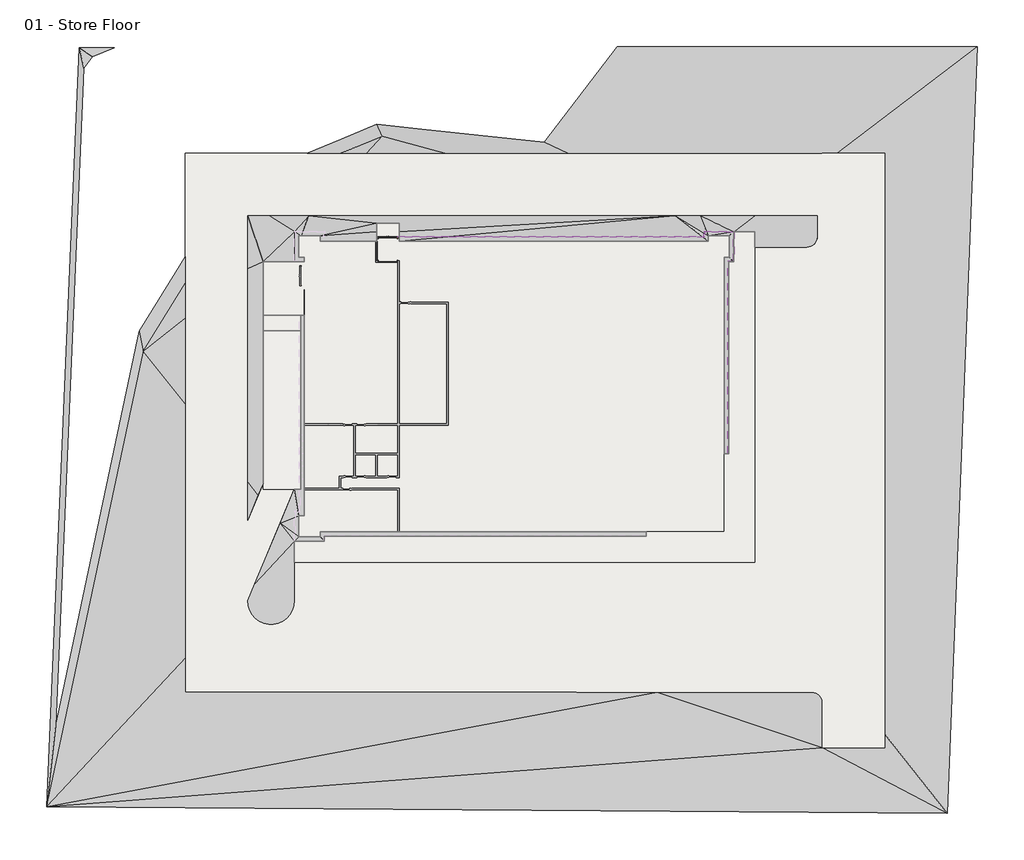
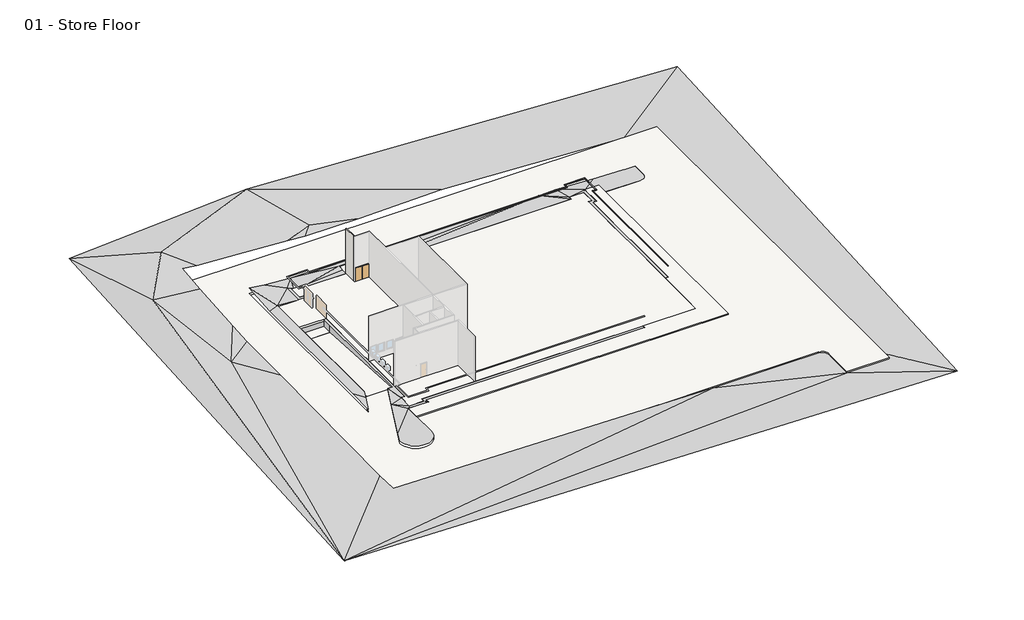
# One storey, part 2 of 2: 11 proxies, 5 slabs, 2 doors, 1 wall.
"""IFC4 building model written with IfcOpenShell, lengths in millimetres."""

from ifc_helpers import new_model, si_unit, point, frame, frame_2d, origin, origin_with_axes, place, context, project, spatial, polyline, circle_curve, trimmed, segment, composite_curve, outline, extrude, triangles, transform, mapped, element, save
from components import m_door_exterior_double_1800_x_2000mm_23919ed1, m_door_passage_double_flush_dbl_acting_1800_x_2000mm_08d7c2af

model = new_model("IFC4")

# Units and contexts
model_context = context("Model", 3, world=origin())
ifc_project = project(units=[si_unit("LENGTHUNIT", "METRE", prefix="MILLI")], contexts=[model_context])

# Site, building, storey
site = spatial("IfcSite", under=ifc_project)
building = spatial("IfcBuilding", under=site)
storey = spatial("IfcBuildingStorey", under=building, Name="01 - Store Floor", Elevation=0.0)

# Proxies
placement = place(None, origin())
element("IfcBuildingElementProxy", 1, Name="Reveals", at=placement, inside=storey, context=model_context, shape_type="SweptSolid", body=[
    extrude(outline(polyline([(-13012.4227721, 14268.0686943), (-13012.4227721, 14370.5686943), (16365.0272279, 14370.5686943), (16467.5272279, 14268.0686943), (-13012.4227721, 14268.0686943)])), frame((0.0, 0.0, 1675.0), z_axis=(0.0, 0.0, 1.0), x_axis=(1.0, 0.0, 0.0)), (0.0, 0.0, 1.0), 75.0),
    extrude(outline(polyline([(-20106.4727721, 14268.0686943), (-20003.9727721, 14370.5686943), (-14912.4227721, 14370.5686943), (-14912.4227721, 14268.0686943), (-20106.4727721, 14268.0686943)])), frame((0.0, 0.0, 1675.0), z_axis=(0.0, 0.0, 1.0), x_axis=(1.0, 0.0, 0.0)), (0.0, 0.0, 1.0), 75.0),
])
element("IfcBuildingElementProxy", 2, Name="Reveals", at=placement, inside=storey, context=model_context, shape_type="SweptSolid", body=[
    extrude(outline(polyline([(16467.5272279, 14268.0686943), (16365.0272279, 14370.5686943), (16365.0272279, 14870.5686943), (16467.5272279, 14768.0686943), (16467.5272279, 14268.0686943)])), frame((0.0, 0.0, 1675.0), z_axis=(0.0, 0.0, 1.0), x_axis=(1.0, 0.0, 0.0)), (0.0, 0.0, 1.0), 75.0),
])
element("IfcBuildingElementProxy", 3, Name="Reveals", at=placement, inside=storey, context=model_context, shape_type="SweptSolid", body=[
    extrude(outline(polyline([(16467.5272279, 14768.0686943), (16365.0272279, 14870.5686943), (19308.0272279, 14870.5686943), (19205.5272279, 14768.0686943), (16467.5272279, 14768.0686943)])), frame((0.0, 0.0, 1675.0), z_axis=(0.0, 0.0, 1.0), x_axis=(1.0, 0.0, 0.0)), (0.0, 0.0, 1.0), 75.0),
])
element("IfcBuildingElementProxy", 4, Name="Reveals", at=placement, inside=storey, context=model_context, shape_type="SweptSolid", body=[
    extrude(outline(polyline([(19205.5272279, 14768.0686943), (19308.0272279, 14870.5686943), (19308.0272279, 11927.5686943), (19205.5272279, 12030.0686943), (19205.5272279, 14768.0686943)])), frame((0.0, 0.0, 1675.0), z_axis=(0.0, 0.0, 1.0), x_axis=(1.0, 0.0, 0.0)), (0.0, 0.0, 1.0), 75.0),
])
element("IfcBuildingElementProxy", 5, Name="Reveals", at=placement, inside=storey, context=model_context, shape_type="SweptSolid", body=[
    extrude(outline(polyline([(19205.5272279, 12030.0686943), (19308.0272279, 11927.5686943), (18808.0272279, 11927.5686943), (18705.5272279, 12030.0686943), (19205.5272279, 12030.0686943)])), frame((0.0, 0.0, 1675.0), z_axis=(0.0, 0.0, 1.0), x_axis=(1.0, 0.0, 0.0)), (0.0, 0.0, 1.0), 75.0),
])
element("IfcBuildingElementProxy", 6, Name="Reveals", at=placement, inside=storey, context=model_context, shape_type="SweptSolid", body=[
    extrude(outline(polyline([(18705.5272279, 12030.0686943), (18808.0272279, 11927.5686943), (18808.0272279, -6481.9313057), (18705.5272279, -6481.9313057), (18705.5272279, 12030.0686943)])), frame((0.0, 0.0, 1675.0), z_axis=(0.0, 0.0, 1.0), x_axis=(1.0, 0.0, 0.0)), (0.0, 0.0, 1.0), 75.0),
])
element("IfcBuildingElementProxy", 7, Name="Building Element Proxy", at=placement, inside=storey, context=model_context, shape_type="Tessellation", body=[
    triangles([(-43566.3082031, 32462.523175, 1000.0000076), (-46716.2229126, -40393.2088623, 1000.0000076), (39777.6557373, -41004.7343262, -500.0000038), (42663.8237549, 32601.6611938, -500.0000038), (-18392.8342987, 32565.4122437, 2500.0000191), (33780.5264465, -34706.930365, -384.9401665), (27780.5275635, -34706.930365, -383.6411179), (27780.5275635, -30406.9323669, -305.9673343), (27731.5840393, -30097.9140198, -300.3747432), (27589.5438721, -29819.144989, -295.30841), (27368.3131897, -29597.9143066, -291.2642528), (27089.5441589, -29455.8741394, -288.6381413), (26780.5281372, -29406.9306152, -287.6871456), (11915.4122314, -29406.9306152, -284.4687919), (-33419.4717407, -29406.9306152, 509.2660807), (-33419.4717407, -26152.3013672, 432.8553014), (-33419.4717407, -1684.9523849, 719.9349804), (-33419.4717407, 6518.3399185, 720.4169277), (-33419.4717407, 9885.0384888, 1000.0000076), (-33419.4717407, 18055.2002563, 1642.8014694), (-33419.4717407, 22343.0687622, 2044.0540123), (-31378.0544861, 22343.0687622, 1780.8529266), (-25462.4923096, 22343.0687622, 1430.5636974), (-18450.5005463, 22343.0687622, 1000.0000076), (-16016.6502686, 22343.0687622, 817.2966974), (-8441.5899673, 22343.0687622, 817.7947048), (3306.7528107, 22343.0687622, 1051.3779762), (29175.0005859, 22343.0687622, -220.2242939), (33780.5264465, 22343.0687622, -317.0081938), (33780.5264465, 15117.0051819, -319.6062183), (33780.5264465, -33407.95849, -361.4759374), (26280.5260986, 13343.0692749, -162.6334778), (26589.5444458, 13392.0116364, -169.1097904), (26868.3134766, 13534.0518036, -174.9169577), (27089.5441589, 13755.2836487, -179.4865371), (27231.5843262, 14034.0515167, -182.3712447), (27280.5278503, 14343.0687012, -183.2886669), (27280.5278503, 16343.0687164, -182.5695974), (21285.7193481, 16343.0687164, -56.5903049), (16043.3172455, 16343.0687164, 201.1098175), (13662.4242004, 16343.0687164, 153.7723545), (-21518.9074402, 16343.0687164, 151.4593325), (-25294.1537476, 16343.0687164, 434.8579408), (-27419.4728577, 16343.0687164, 722.9589964), (-27419.4728577, 11264.0287354, 301.1768745), (-27419.4728577, -9240.2545898, 299.9721152), (-27419.4728577, -12884.300766, 257.215895), (-26417.4247192, -10502.0496643, 229.83499), (-25919.4737183, -9318.2271561, 195.0878195), (-25919.4737183, 5316.5097885, 195.9477053), (-25919.4737183, 6816.5095093, 196.0358358), (-25919.4737183, 11955.0691132, 196.3377614), (-22896.9000732, 11955.0691132, -14.9999997), (-21990.4716797, 11955.0691132, -14.9999997), (-21990.4716797, 12384.0685089, -14.9999997), (-22490.4737183, 12384.0685089, -14.9999997), (-22490.4737183, 14414.0690186, -14.9999997), (-22283.239856, 14414.0690186, -14.9999997), (-20460.4720459, 14414.0690186, -14.9999997), (-20460.4720459, 13914.0681427, -14.9999997), (-15030.2232697, 13914.0681427, -14.9999997), (-15030.2232697, 14838.4070709, -14.9999997), (-15030.2232697, 15634.0689697, 73.2489038), (-12830.2226715, 15634.0689697, 73.3935443), (-12830.2226715, 14837.1024994, -14.9999997), (-12830.2226715, 13914.0681427, -14.9999997), (16821.5267212, 13914.0681427, -14.9999997), (16821.5267212, 14414.0690186, -14.9999997), (18851.5272308, 14414.0690186, -14.9999997), (18851.5272308, 12384.0685089, -14.9999997), (18351.5275177, 12384.0685089, -14.9999997), (18351.5275177, -6481.9310944, -14.9999997), (18780.5269135, -6481.9310944, -14.9999997), (18780.5269135, 11955.0691132, -14.9999997), (19231.5447327, 11955.0691132, -14.9999997), (19280.5277893, 11955.0691132, -16.029345), (19280.5277893, 14818.0687775, -14.9999997), (19280.5277893, 14843.0684143, -14.0659235), (19313.3990387, 14843.0684143, -15.6818087), (21280.5266418, 14843.0684143, -57.0204839), (21280.5266418, 13343.0692749, -57.559786), (-22919.473114, -16906.9308105, 31.9598247), (-22919.473114, -14906.7308075, -14.9999997), (-20031.4726501, -14906.7308075, -15.6252635), (-20031.4726501, -14872.1166412, -14.9999997), (-20031.4726501, -14406.9310822, -14.9999997), (10855.5269257, -14406.9310822, -14.9999997), (10855.5269257, -13977.9316864, -14.9999997), (-20460.4720459, -13977.9316864, -14.9999997), (-20460.4720459, -14477.7314117, -14.9999997), (-22490.4737183, -14477.7314117, -14.9999997), (-22490.4737183, -12447.7309021, -14.9999997), (-21990.4716797, -12447.7309021, -14.9999997), (-21990.4716797, 6816.5095093, -14.9999997), (-22319.4725281, 6816.5095093, -14.9999997), (-22319.4725281, 5316.5097885, -14.9999997), (-22319.4725281, -9923.4907928, -14.9999997), (-22915.2849976, -9923.4907928, -14.9999997), (-22919.473114, -9923.4907928, -14.7072021), (-24289.7755188, -13181.2233398, 80.9126756), (-26734.0263245, -18992.1430664, 147.701713), (-27419.4728577, -20621.7110413, 197.9609908), (-27370.3037659, -21089.5127197, 208.0829929), (-27224.9498474, -21536.8691345, 216.040901), (-26989.7618774, -21944.2279907, 221.4869712), (-26675.0159729, -22293.7880493, 224.1831366), (-26294.471759, -22570.2688477, 224.0115809), (-25864.7607788, -22761.5897278, 220.9798074), (-25404.6609558, -22859.386084, 215.2203116), (-24934.2826904, -22859.386084, 206.9848041), (-24474.1851929, -22761.5897278, 196.6332376), (-24044.4718872, -22570.2688477, 184.6180007), (-23663.9299988, -22293.7880493, 171.4642251), (-23349.1840942, -21944.2279907, 157.746803), (-23113.9961243, -21536.8691345, 144.0652526), (-22968.6398804, -21089.5127197, 131.0175116), (-22919.473114, -20621.7110413, 119.1738304), (-34204.7703186, 26133.4374023, 2500.0000191), (-40234.7441162, 17825.4724182, 2500.0000191), (-14506.8505646, 23989.4473389, 1000.0000076), (-37420.7554138, 3353.5319321, 1000.0000076), (-22894.4723145, 14843.0684143, -14.9999997)], [[2, 15, 16], [121, 2, 16], [102, 108, 109], [102, 107, 108], [109, 110, 102], [103, 106, 107], [106, 103, 104], [102, 103, 107], [101, 102, 117], [104, 105, 106], [111, 102, 110], [46, 47, 48], [112, 113, 102], [113, 114, 102], [116, 102, 115], [117, 102, 116], [102, 114, 115], [117, 82, 101], [83, 100, 101], [92, 99, 100], [100, 83, 91], [101, 82, 83], [92, 98, 99], [97, 92, 93], [92, 97, 98], [84, 91, 83], [92, 100, 91], [111, 112, 102], [14, 15, 2], [121, 18, 19], [18, 121, 17], [121, 19, 119], [45, 51, 52], [49, 50, 46], [51, 45, 50], [121, 16, 17], [119, 21, 118], [21, 119, 20], [5, 1, 118], [118, 1, 119], [21, 22, 118], [1, 2, 119], [44, 52, 43], [20, 119, 19], [52, 44, 45], [118, 22, 23], [119, 2, 121], [45, 46, 50], [122, 52, 53], [97, 94, 96], [93, 94, 97], [94, 95, 96], [46, 48, 49], [53, 54, 56], [42, 43, 122], [57, 122, 53], [122, 57, 58], [43, 52, 122], [55, 56, 54], [58, 42, 122], [59, 42, 58], [56, 57, 53], [5, 118, 23], [89, 90, 86], [91, 84, 90], [85, 90, 84], [86, 88, 89], [85, 86, 90], [88, 86, 87], [74, 71, 72], [72, 73, 74], [74, 75, 70], [76, 70, 75], [74, 70, 71], [10, 8, 9], [7, 8, 13], [6, 3, 31], [3, 6, 7], [7, 14, 2], [8, 10, 11], [80, 81, 32], [33, 37, 32], [11, 12, 13], [37, 33, 34], [13, 8, 11], [35, 37, 34], [31, 3, 30], [7, 13, 14], [2, 3, 7], [76, 77, 70], [62, 59, 61], [61, 59, 60], [63, 59, 62], [64, 65, 41], [66, 41, 65], [41, 42, 64], [5, 23, 24], [120, 5, 24], [24, 25, 120], [63, 64, 42], [26, 27, 5], [26, 120, 25], [5, 120, 26], [5, 27, 4], [42, 59, 63], [68, 40, 41], [68, 69, 78], [78, 69, 77], [78, 79, 39], [38, 32, 37], [69, 70, 77], [37, 35, 36], [68, 78, 40], [78, 39, 40], [39, 79, 80], [39, 80, 32], [39, 32, 38], [29, 4, 28], [4, 29, 30], [30, 3, 4], [4, 27, 28], [68, 41, 67], [67, 41, 66]], closed=False),
])
element("IfcBuildingElementProxy", 8, Name="Building Element Proxy", at=placement, inside=storey, context=model_context, shape_type="Tessellation", body=[
    triangles([(10855.5269257, -13977.9316864, -304.9595106), (10855.5269257, -13977.9316864, -14.9999997), (-20460.4720459, -13977.9316864, -304.9595106), (-20460.4720459, -13977.9316864, -14.9999997), (-20460.4720459, -14477.7314117, -304.9595106), (-20460.4720459, -14477.7314117, -14.9999997), (-22490.4737183, -14477.7314117, -304.9595106), (-22490.4737183, -14477.7314117, -14.9999997), (-22490.4737183, -12447.7309021, -304.9595106), (-22490.4737183, -12447.7309021, -14.9999997), (-21990.4716797, -12447.7309021, -304.9595106), (-21990.4716797, -12447.7309021, -14.9999997), (-21990.4716797, 6816.5095093, -304.9595106), (-21990.4716797, 6816.5095093, -14.9999997), (-22319.4725281, 6816.5095093, -304.9595106), (-22319.4725281, 6816.5095093, -14.9999997)], [[1, 4, 2], [1, 3, 4], [3, 6, 4], [3, 5, 6], [5, 8, 6], [5, 7, 8], [7, 10, 8], [7, 9, 10], [9, 12, 10], [9, 11, 12], [11, 14, 12], [11, 13, 14], [13, 16, 14], [13, 15, 16]], closed=False),
    triangles([(-25919.4737183, 6816.5095093, -304.9595106), (-25919.4737183, 6816.5095093, 196.0358358), (-25919.4737183, 11955.0691132, -304.9595106), (-25919.4737183, 11955.0691132, 196.3377614), (-22896.9000732, 11955.0691132, -304.9595106), (-22896.9000732, 11955.0691132, -14.9999997), (-21990.4716797, 11955.0691132, -304.9595106), (-21990.4716797, 11955.0691132, -14.9999997), (-21990.4716797, 12384.0685089, -304.9595106), (-21990.4716797, 12384.0685089, -14.9999997), (-22490.4737183, 12384.0685089, -304.9595106), (-22490.4737183, 12384.0685089, -14.9999997), (-22490.4737183, 14414.0690186, -304.9595106), (-22490.4737183, 14414.0690186, -14.9999997), (-22283.239856, 14414.0690186, -304.9595106), (-22283.239856, 14414.0690186, -14.9999997), (-20460.4720459, 14414.0690186, -304.9595106), (-20460.4720459, 14414.0690186, -14.9999997), (-20460.4720459, 13914.0681427, -304.9595106), (-20460.4720459, 13914.0681427, -14.9999997), (-15030.2232697, 13914.0681427, -304.9595106), (-15030.2232697, 13914.0681427, -14.9999997), (-15030.2232697, 14838.4070709, -304.9595106), (-15030.2232697, 14838.4070709, -14.9999997), (-15030.2232697, 15634.0689697, -304.9595106), (-15030.2232697, 15634.0689697, 73.2489038), (-12830.2226715, 15634.0689697, -304.9595106), (-12830.2226715, 15634.0689697, 73.3935443), (-12830.2226715, 14837.1024994, -304.9595106), (-12830.2226715, 14837.1024994, -14.9999997), (-12830.2226715, 13914.0681427, -304.9595106), (-12830.2226715, 13914.0681427, -14.9999997), (16821.5267212, 13914.0681427, -304.9595106), (16821.5267212, 13914.0681427, -14.9999997), (16821.5267212, 14414.0690186, -304.9595106), (16821.5267212, 14414.0690186, -14.9999997), (18851.5272308, 14414.0690186, -304.9595106), (18851.5272308, 14414.0690186, -14.9999997), (18851.5272308, 12384.0685089, -304.9595106), (18851.5272308, 12384.0685089, -14.9999997), (18351.5275177, 12384.0685089, -304.9595106), (18351.5275177, 12384.0685089, -14.9999997), (18351.5275177, -6481.9310944, -304.9595106), (18351.5275177, -6481.9310944, -14.9999997)], [[1, 4, 2], [1, 3, 4], [3, 6, 4], [3, 5, 6], [5, 8, 6], [5, 7, 8], [7, 10, 8], [7, 9, 10], [9, 12, 10], [9, 11, 12], [11, 14, 12], [11, 13, 14], [13, 16, 14], [13, 15, 16], [15, 18, 16], [15, 17, 18], [17, 20, 18], [17, 19, 20], [19, 22, 20], [19, 21, 22], [21, 24, 22], [21, 23, 24], [23, 26, 24], [23, 25, 26], [25, 28, 26], [25, 27, 28], [27, 30, 28], [27, 29, 30], [29, 32, 30], [29, 31, 32], [31, 34, 32], [31, 33, 34], [33, 36, 34], [33, 35, 36], [35, 38, 36], [35, 37, 38], [37, 40, 38], [37, 39, 40], [39, 42, 40], [39, 41, 42], [41, 44, 42], [41, 43, 44]], closed=False),
    triangles([(-15030.2232697, 13914.0681427, -304.9595106), (-20460.4720459, 13914.0681427, -304.9595106), (-20460.4720459, 14414.0690186, -304.9595106), (-22490.4737183, 14414.0690186, -304.9595106), (-22490.4737183, 12384.0685089, -304.9595106), (-21990.4716797, 12384.0685089, -304.9595106), (-21990.4716797, 11955.0691132, -304.9595106), (-25919.4737183, 11955.0691132, -304.9595106), (-25919.4737183, 6816.5095093, -304.9595106), (-21990.4716797, 6816.5095093, -304.9595106), (-21990.4716797, -12447.7309021, -304.9595106), (-22490.4737183, -12447.7309021, -304.9595106), (-22490.4737183, -14477.7314117, -304.9595106), (-20460.4720459, -14477.7314117, -304.9595106), (-20460.4720459, -13977.9316864, -304.9595106), (10855.5269257, -13977.9316864, -304.9595106), (18351.5275177, -13977.9316864, -304.9595106), (18351.5275177, -6481.9310944, -304.9595106), (18351.5275177, 12384.0685089, -304.9595106), (18851.5272308, 12384.0685089, -304.9595106), (18851.5272308, 14414.0690186, -304.9595106), (16821.5267212, 14414.0690186, -304.9595106), (16821.5267212, 13914.0681427, -304.9595106), (-12830.2226715, 13914.0681427, -304.9595106), (-12830.2226715, 15634.0689697, -304.9595106), (-15030.2232697, 15634.0689697, -304.9595106)], [[13, 11, 12], [11, 13, 15], [11, 15, 10], [15, 13, 14], [1, 7, 10], [7, 8, 9], [2, 4, 6], [6, 4, 5], [3, 4, 2], [2, 6, 7], [9, 10, 7], [10, 15, 24], [24, 16, 18], [24, 1, 10], [18, 16, 17], [23, 24, 18], [23, 18, 19], [21, 19, 20], [2, 7, 1], [26, 1, 25], [22, 23, 21], [23, 19, 21], [25, 1, 24], [15, 16, 24]], closed=False),
])
element("IfcBuildingElementProxy", 9, Name="Building Element Proxy", at=placement, inside=storey, context=model_context, shape_type="Tessellation", body=[
    triangles([(10855.5269257, -13977.9316864, -304.9595106), (10855.5269257, -13977.9316864, -14.9999997), (10855.5269257, -14406.9310822, -304.9595106), (10855.5269257, -14406.9310822, -14.9999997), (-20031.4726501, -14406.9310822, -304.9595106), (-20031.4726501, -14406.9310822, -14.9999997), (-20031.4726501, -14872.1166412, -304.9595106), (-20031.4726501, -14872.1166412, -14.9999997), (-20031.4726501, -14906.7308075, -304.9595106), (-20031.4726501, -14906.7308075, -15.6252635), (-22919.473114, -14906.7308075, -304.9595106), (-22919.473114, -14906.7308075, -14.9999997), (-22919.473114, -16906.9308105, -304.9595106), (-22919.473114, -16906.9308105, 31.9598247)], [[1, 4, 2], [1, 3, 4], [3, 6, 4], [3, 5, 6], [5, 8, 6], [5, 7, 8], [7, 10, 8], [7, 9, 10], [9, 12, 10], [9, 11, 12], [11, 14, 12], [11, 13, 14]], closed=False),
    triangles([(18351.5275177, -6481.9310944, -304.9595106), (18351.5275177, -6481.9310944, -14.9999997), (18780.5269135, -6481.9310944, -304.9595106), (18780.5269135, -6481.9310944, -14.9999997), (18780.5269135, 11955.0691132, -304.9595106), (18780.5269135, 11955.0691132, -14.9999997), (19231.5447327, 11955.0691132, -304.9595106), (19231.5447327, 11955.0691132, -14.9999997), (19280.5277893, 11955.0691132, -304.9595106), (19280.5277893, 11955.0691132, -16.029345), (19280.5277893, 14818.0687775, -304.9595106), (19280.5277893, 14818.0687775, -14.9999997), (19280.5277893, 14843.0684143, -304.9595106), (19280.5277893, 14843.0684143, -14.0659235), (19313.3990387, 14843.0684143, -304.9595106), (19313.3990387, 14843.0684143, -15.6818087), (21280.5266418, 14843.0684143, -304.9595106), (21280.5266418, 14843.0684143, -57.0204839), (21280.5266418, 13343.0692749, -304.9595106), (21280.5266418, 13343.0692749, -57.559786)], [[1, 4, 2], [1, 3, 4], [3, 6, 4], [3, 5, 6], [5, 8, 6], [5, 7, 8], [7, 10, 8], [7, 9, 10], [9, 12, 10], [9, 11, 12], [11, 14, 12], [11, 13, 14], [13, 16, 14], [13, 15, 16], [15, 18, 16], [15, 17, 18], [17, 20, 18], [17, 19, 20]], closed=False),
    triangles([(21280.5266418, 14843.0684143, -304.9595106), (19280.5277893, 14843.0684143, -304.9595106), (19280.5277893, 11955.0691132, -304.9595106), (18780.5269135, 11955.0691132, -304.9595106), (18780.5269135, -6481.9310944, -304.9595106), (18351.5275177, -6481.9310944, -304.9595106), (18351.5275177, -13977.9316864, -304.9595106), (10855.5269257, -13977.9316864, -304.9595106), (10855.5269257, -14406.9310822, -304.9595106), (-20031.4726501, -14406.9310822, -304.9595106), (-20031.4726501, -14906.7308075, -304.9595106), (-22919.473114, -14906.7308075, -304.9595106), (-22919.473114, -16906.9308105, -304.9595106), (21280.5266418, -16906.9308105, -304.9595106)], [[13, 11, 12], [11, 13, 9], [7, 8, 9], [10, 11, 9], [13, 14, 9], [7, 14, 5], [14, 7, 9], [5, 14, 1], [3, 4, 5], [1, 2, 3], [3, 5, 1], [5, 6, 7]], closed=False),
])
element("IfcBuildingElementProxy", 10, Name="Building Element Proxy", at=placement, inside=storey, context=model_context, shape_type="Tessellation", body=[
    triangles([(-25919.4737183, 5316.5097885, -1369.9595478), (-25919.4737183, 5316.5097885, -1370.3489136), (-22902.4788025, 5316.5097885, -1369.9595478), (-22902.4788025, 5316.5097885, -1370.3489136), (-22319.4725281, 5316.5097885, -1369.9595478), (-22319.4725281, 5316.5097885, -1370.3489136)], [[1, 4, 2], [1, 3, 4], [3, 6, 4], [3, 5, 6]], closed=False),
    triangles([(-25919.4737183, 6816.5095093, -1369.9595478), (-25919.4737183, 6816.5095093, -304.9595106), (-22901.2184143, 6816.5095093, -1369.9595478), (-22901.2184143, 6816.5095093, -304.9595106), (-22319.4725281, 6816.5095093, -1369.9595478), (-22319.4725281, 6816.5095093, -304.9595106)], [[1, 4, 2], [1, 3, 4], [3, 6, 4], [3, 5, 6]], closed=False),
    triangles([(-22319.4725281, 5316.5097885, -1369.9595478), (-22319.4725281, 5316.5097885, -14.9999997), (-22319.4725281, 6816.5095093, -1369.9595478), (-22319.4725281, 6816.5095093, -14.9999997)], [[1, 4, 2], [1, 3, 4]], closed=False),
    triangles([(-25919.4737183, 6816.5095093, -1369.9595478), (-25919.4737183, 6816.5095093, 196.0358358), (-25919.4737183, 5316.5097885, -1369.9595478), (-25919.4737183, 5316.5097885, 195.9477053)], [[1, 4, 2], [1, 3, 4]], closed=False),
    triangles([(-25919.4737183, 6816.5095093, -1369.9595478), (-25919.4737183, 5316.5097885, -1369.9595478), (-22319.4725281, 5316.5097885, -1369.9595478), (-22319.4725281, 6816.5095093, -1369.9595478)], [[1, 2, 3], [3, 4, 1]], closed=False),
])
element("IfcBuildingElementProxy", 11, Name="Building Element Proxy", at=placement, inside=storey, context=model_context, shape_type="Tessellation", body=[
    triangles([(-22319.4725281, 5316.5097885, -1370.3489136), (-22319.4725281, 5316.5097885, -14.9999997), (-22319.4725281, -9923.4907928, -455.3488775), (-22319.4725281, -9923.4907928, -14.9999997), (-22915.2849976, -9923.4907928, -455.3488775), (-22915.2849976, -9923.4907928, -14.9999997), (-22919.473114, -9923.4907928, -455.3488775), (-22919.473114, -9923.4907928, -14.7072021)], [[1, 4, 2], [1, 3, 4], [3, 6, 4], [3, 5, 6], [5, 8, 6], [5, 7, 8]], closed=False),
    triangles([(-25919.4737183, 5316.5097885, -1370.3489136), (-25919.4737183, 5316.5097885, 195.9477053), (-25919.4737183, -9318.2271561, -491.6884835), (-25919.4737183, -9318.2271561, 195.0878195)], [[1, 4, 2], [1, 3, 4]], closed=False),
    triangles([(-25919.4737183, 5316.5097885, -1370.3489136), (-25919.4737183, -9923.4907928, -455.3488775), (-22319.4725281, -9923.4907928, -455.3488775), (-22319.4725281, 5316.5097885, -1370.3489136)], [[1, 2, 3], [3, 4, 1]], closed=False),
])

# Doors
m_door_exterior_double_1800_x_2000mm_shape = m_door_exterior_double_1800_x_2000mm_23919ed1(model_context)
element("IfcDoor", 12, ObjectType="M_Door-Exterior-Double : 1800 x 2000mm", at=placement, inside=storey, context=model_context, shape_type="MappedRepresentation", body=[
    mapped(m_door_exterior_double_1800_x_2000mm_shape, transform((-13962.4227721, 14122.2186943, 0.0), x_axis=(-1.0, 0.0, 0.0), y_axis=(0.0, -1.0, 0.0), z_axis=(0.0, 0.0, 1.0))),
])
m_door_passage_double_flush_dbl_acting_1800_x_2000mm_shape = m_door_passage_double_flush_dbl_acting_1800_x_2000mm_08d7c2af(model_context)
element("IfcDoor", 13, ObjectType="M_Door-Passage-Double-Flush-Dbl_Acting : 1800 x 2000mm", at=placement, inside=storey, context=model_context, shape_type="MappedRepresentation", body=[
    mapped(m_door_passage_double_flush_dbl_acting_1800_x_2000mm_shape, transform((-13959.9477721, 11961.4186943, 0.0), x_axis=(-1.0, 0.0, 0.0), y_axis=(0.0, -1.0, 0.0), z_axis=(0.0, 0.0, 1.0))),
])

# Slabs
element("IfcSlab", 14, ObjectType="Pad 1", at=placement, inside=storey, context=model_context, shape_type="SweptSolid", body=[
    extrude(outline(polyline([(-15030.2227721, 13914.0686943), (-15030.2227721, 15634.0686943), (-12830.2227721, 15634.0686943), (-12830.2227721, 13914.0686943), (16821.5272279, 13914.0686943), (16821.5272279, 14414.0686943), (18851.5272279, 14414.0686943), (18851.5272279, 12384.0686943), (18351.5272279, 12384.0686943), (18351.5272279, -6481.9313057), (18351.5272279, -13977.9313057), (10855.5272279, -13977.9313057), (-20460.4727721, -13977.9313057), (-20460.4727721, -14477.7313057), (-22490.4727721, -14477.7313057), (-22490.4727721, -12447.7313057), (-21990.4727721, -12447.7313057), (-21990.4727721, 6816.509692), (-25919.4727721, 6816.509692), (-25919.4727721, 11955.0686943), (-21990.4727721, 11955.0686943), (-21990.4727721, 12384.0686943), (-22490.4727721, 12384.0686943), (-22490.4727721, 14414.0686943), (-20460.4727721, 14414.0686943), (-20460.4727721, 13914.0686943), (-15030.2227721, 13914.0686943)])), frame((0.0, 0.0, -304.8), z_axis=(0.0, 0.0, 1.0), x_axis=(1.0, 0.0, 0.0)), (0.0, 0.0, 1.0), 304.8),
])
element("IfcSlab", 15, ObjectType="Pad 1", at=placement, inside=storey, context=model_context, shape_type="SweptSolid", body=[
    extrude(outline(polyline([(21280.5272279, 14843.0686943), (21280.5272279, -16906.9313057), (-22919.4727721, -16906.9313057), (-22919.4727721, -14906.7313057), (-20031.4727721, -14906.7313057), (-20031.4727721, -14406.9313057), (10855.5272279, -14406.9313057), (10855.5272279, -13977.9313057), (18351.5272279, -13977.9313057), (18351.5272279, -6481.9313057), (18780.5272279, -6481.9313057), (18780.5272279, 11955.0686943), (19280.5272279, 11955.0686943), (19280.5272279, 14843.0686943), (21280.5272279, 14843.0686943)])), frame((0.0, 0.0, -304.8), z_axis=(0.0, 0.0, 1.0), x_axis=(1.0, 0.0, 0.0)), (0.0, 0.0, 1.0), 304.8),
])
element("IfcSlab", 16, ObjectType="Pad 1", at=placement, inside=storey, context=model_context, shape_type="SweptSolid", body=[
    extrude(outline(composite_curve([segment(polyline([(33780.5272279, -34706.9313057), (27780.5272279, -34706.9313057), (27780.5272279, -30406.9313057)]), True, "CONTINUOUS"), segment(trimmed(circle_curve(frame_2d((26780.5272279, -30406.9313057)), 1000.0), [point((27780.5272279, -30406.9313057))], [point((26780.5272279, -29406.9313057))], True, "CARTESIAN"), True, "CONTINUOUS"), segment(polyline([(26780.5272279, -29406.9313057), (-33419.4727721, -29406.9313057), (-33419.4727721, 22343.0686943), (33780.5272279, 22343.0686943), (33780.5272279, -34706.9313057)]), True, "CONTINUOUS")], self_intersect=False), holes=[composite_curve([segment(trimmed(circle_curve(frame_2d((26280.5272279, 14343.0686943)), 1000.0), [point((26280.5272279, 13343.0686943))], [point((27280.5272279, 14343.0686943))], True, "CARTESIAN"), True, "CONTINUOUS"), segment(polyline([(27280.5272279, 14343.0686943), (27280.5272279, 16343.0686943), (-27419.4727721, 16343.0686943), (-27419.4727721, -12884.3008421), (-25919.4727721, -9318.2269035), (-25919.4727721, -9923.490308), (-22919.4727721, -9923.490308), (-27419.4727721, -20621.7121237)]), True, "CONTINUOUS"), segment(trimmed(circle_curve(frame_2d((-25169.4727721, -20621.7121237)), 2250.0), [point((-27419.4727721, -20621.7121237))], [point((-22919.4727721, -20621.7121237))], True, "CARTESIAN"), True, "CONTINUOUS"), segment(polyline([(-22919.4727721, -20621.7121237), (-22919.4727721, -16906.9313057), (21280.5272279, -16906.9313057), (21280.5272279, 13343.0686943), (26280.5272279, 13343.0686943)]), True, "CONTINUOUS")], self_intersect=False)]), frame((0.0, 0.0, -454.8), z_axis=(0.0, 0.0, 1.0), x_axis=(1.0, 0.0, 0.0)), (0.0, 0.0, 1.0), 304.8),
])
element("IfcSlab", 17, ObjectType="Pad 1", at=placement, inside=storey, context=model_context, shape_type="SweptSolid", body=[
    extrude(outline(polyline([(-25919.4727721, 6816.509692), (-22319.4727721, 6816.509692), (-22319.4727721, 5316.509692), (-25919.4727721, 5316.509692), (-25919.4727721, 6816.509692)])), frame((0.0, 0.0, -1369.8), z_axis=(0.0, 0.0, 1.0), x_axis=(1.0, 0.0, 0.0)), (0.0, 0.0, 1.0), 304.8),
])
element("IfcSlab", 18, ObjectType="Pad 1", at=placement, inside=storey, context=model_context, shape_type="SweptSolid", body=[
    extrude(outline(polyline([(5316.509692, -1370.3488661), (-9923.490308, -455.3488661), (-9923.490308, -150.0), (5316.509692, -1065.0), (5316.509692, -1370.3488661)])), frame((-25919.4727721, 0.0, 0.0), z_axis=(1.0, 0.0, 0.0), x_axis=(0.0, 1.0, 0.0)), (0.0, 0.0, 1.0), 3600.0),
])

# Wall
element("IfcWall", 19, ObjectType="Interior - 138mm Partition (1-hr)", at=placement, inside=storey, context=model_context, shape_type="SweptSolid", body=[
    extrude(outline(polyline([(-14950.2227721, 13914.0686943), (-14950.2227721, 12024.3186943), (-15088.7227721, 12024.3186943), (-15088.7227721, 13914.0686943), (-14950.2227721, 13914.0686943)])), origin_with_axes(), (0.0, 0.0, 1.0), 6750.0),
])

save(model, "model.ifc")
